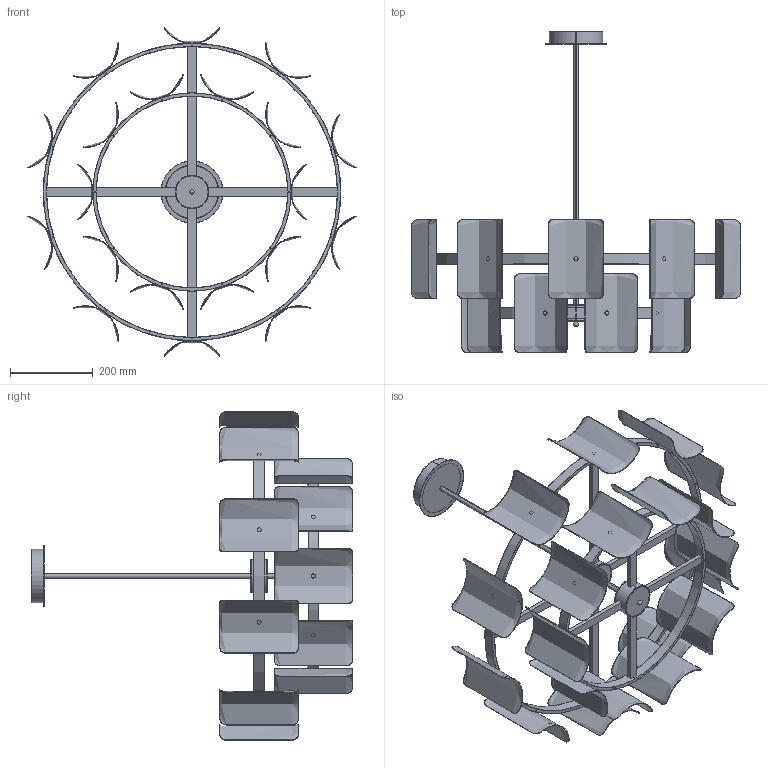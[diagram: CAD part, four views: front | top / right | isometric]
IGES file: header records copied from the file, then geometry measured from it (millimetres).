
Start section: SolidWorks IGES file using analytic representation for surfaces
Global section: file name: F:\燠隴矨\3D\2025-11\Fingerprint Chandelier-D80cm.IGS,15; native system: HSolidWorks 2022; preprocessor: SolidWorks 2022; author: MyPC; date: 251129.113747; units: millimetre
Bounding box: 796.77 x 777 x 794.41 mm (x, y, z)
Surface area: 1793114.3 mm2 (no closed solid volume)
Topology: 0 solids, 0 shells, 709 faces, 11454 edges, 11452 vertices
Faces by surface type: bspline 433, revolution 276
